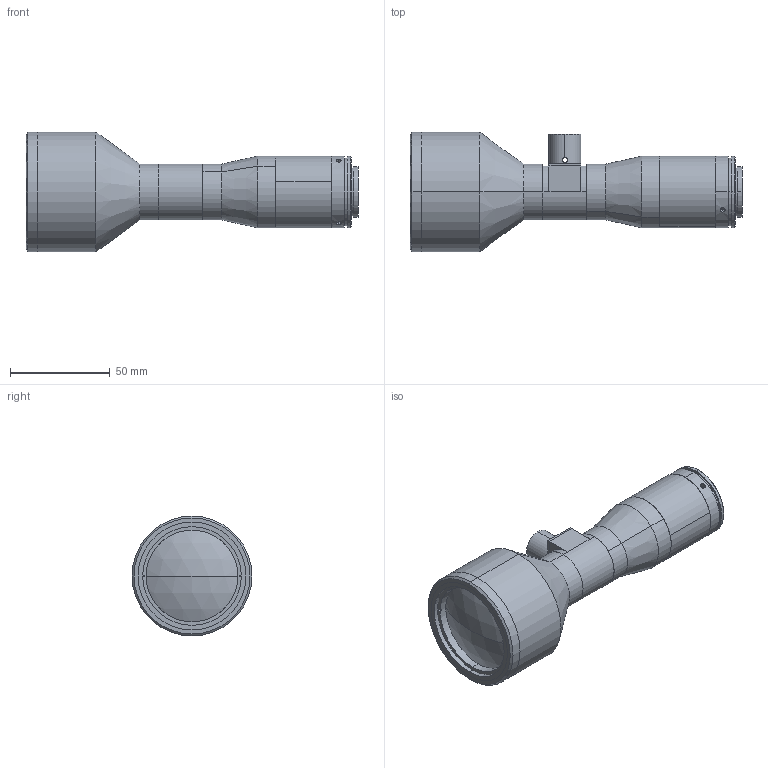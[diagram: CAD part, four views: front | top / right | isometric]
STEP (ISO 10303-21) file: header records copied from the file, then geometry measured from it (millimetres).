
FILE_DESCRIPTION (( 'STEP AP203' ), '1' );
FILE_NAME ('XF-5MDT0.44X110D-1C-蚾饜极-20151126V5.STEP', '2016-02-23T03:14:20', ( 'cherishsunshine' ), ( '' ), 'SwSTEP 2.0', 'SolidWorks 2014', '' );
FILE_SCHEMA (( 'CONFIG_CONTROL_DESIGN' ));
Length unit declared in the file: millimetre
Products named in the file (1): XF-5MDT0.44X110D-1C-蚾饜极-20151126V5
Bounding box: 166.17 x 60 x 60 mm (x, y, z)
Surface area: 34791.3 mm2 (no closed solid volume)
Topology: 0 solids, 14 shells, 119 faces, 312 edges, 209 vertices
Faces by surface type: cylinder 69, plane 38, cone 10, sphere 2
Entity records: 4130 total; most frequent: CARTESIAN_POINT 1029, DIRECTION 696, ORIENTED_EDGE 532, EDGE_CURVE 312, AXIS2_PLACEMENT_3D 284, VERTEX_POINT 209, CIRCLE 164, EDGE_LOOP 148
